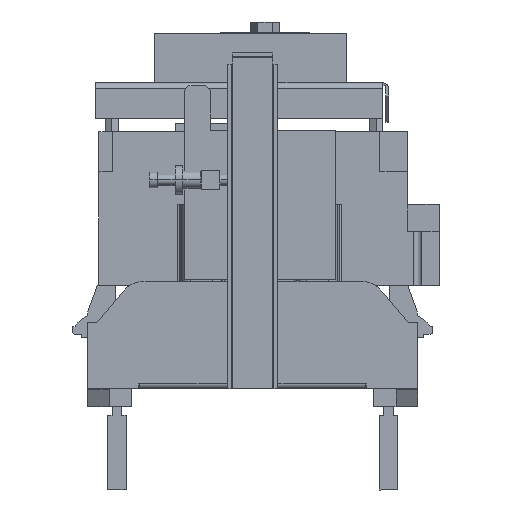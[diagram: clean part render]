
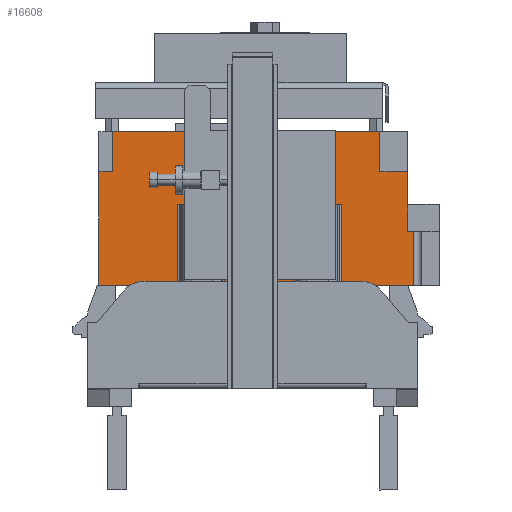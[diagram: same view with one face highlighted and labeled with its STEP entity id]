
A CAD part, left-side view. The second image highlights one B-rep face of the part: STEP entity #16608.
In plain terms, the highlighted planar face has unit normal (-1, 0, 0).
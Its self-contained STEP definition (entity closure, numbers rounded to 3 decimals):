
#79 = EDGE_CURVE ( 'NONE', #19683, #11503, #25504, .T. ) ;
#149 = PLANE ( 'NONE',  #26766 ) ;
#354 = VERTEX_POINT ( 'NONE', #3316 ) ;
#360 = VERTEX_POINT ( 'NONE', #3441 ) ;
#473 = EDGE_CURVE ( 'NONE', #23004, #24489, #12141, .T. ) ;
#566 = CARTESIAN_POINT ( 'NONE',  ( -225., 361., 120.35 ) ) ;
#589 = ORIENTED_EDGE ( 'NONE', *, *, #79, .T. ) ;
#903 = VERTEX_POINT ( 'NONE', #20388 ) ;
#1126 = VERTEX_POINT ( 'NONE', #27131 ) ;
#1480 = CARTESIAN_POINT ( 'NONE',  ( -225., 361., 120.35 ) ) ;
#1605 = DIRECTION ( 'NONE',  ( 0., -1., 0. ) ) ;
#1644 = CARTESIAN_POINT ( 'NONE',  ( -225., 277.247, 86. ) ) ;
#1752 = EDGE_CURVE ( 'NONE', #1126, #19683, #22999, .T. ) ;
#1860 = DIRECTION ( 'NONE',  ( 0., 0., -1. ) ) ;
#1921 = ORIENTED_EDGE ( 'NONE', *, *, #11876, .T. ) ;
#1943 = CARTESIAN_POINT ( 'NONE',  ( -225., 227.378, 86. ) ) ;
#2276 = CARTESIAN_POINT ( 'NONE',  ( -225., 33.596, 120.35 ) ) ;
#2377 = DIRECTION ( 'NONE',  ( 0., 0., -1. ) ) ;
#2500 = EDGE_CURVE ( 'NONE', #354, #25776, #24986, .T. ) ;
#2631 = EDGE_CURVE ( 'NONE', #23232, #13958, #22244, .T. ) ;
#3305 = VERTEX_POINT ( 'NONE', #10548 ) ;
#3311 = VECTOR ( 'NONE', #3444, 1000. ) ;
#3316 = CARTESIAN_POINT ( 'NONE',  ( -225., 361., 0. ) ) ;
#3441 = CARTESIAN_POINT ( 'NONE',  ( -225., 346.2, 162.85 ) ) ;
#3444 = DIRECTION ( 'NONE',  ( 0., 0., -1. ) ) ;
#3451 = DIRECTION ( 'NONE',  ( 0., -1., 0. ) ) ;
#3610 = VECTOR ( 'NONE', #5686, 1000. ) ;
#3797 = VERTEX_POINT ( 'NONE', #2276 ) ;
#3880 = LINE ( 'NONE', #5277, #14881 ) ;
#4095 = LINE ( 'NONE', #24920, #15076 ) ;
#4107 = VECTOR ( 'NONE', #23623, 1000. ) ;
#4157 = CARTESIAN_POINT ( 'NONE',  ( -225., 277.247, 0. ) ) ;
#5277 = CARTESIAN_POINT ( 'NONE',  ( -225., 0., 0. ) ) ;
#5415 = DIRECTION ( 'NONE',  ( 0., 0., 1. ) ) ;
#5498 = LINE ( 'NONE', #1480, #10666 ) ;
#5686 = DIRECTION ( 'NONE',  ( 0., 1., 0. ) ) ;
#5727 = CARTESIAN_POINT ( 'NONE',  ( -225., 33.677, 57.45 ) ) ;
#5821 = ORIENTED_EDGE ( 'NONE', *, *, #20326, .F. ) ;
#5876 = VECTOR ( 'NONE', #3451, 1000. ) ;
#5964 = DIRECTION ( 'NONE',  ( 0., 0., -1. ) ) ;
#6244 = VECTOR ( 'NONE', #13614, 1000. ) ;
#6290 = CARTESIAN_POINT ( 'NONE',  ( -225., 103.86, 86. ) ) ;
#6983 = VERTEX_POINT ( 'NONE', #14270 ) ;
#7090 = DIRECTION ( 'NONE',  ( 0., 0., 1. ) ) ;
#7183 = CARTESIAN_POINT ( 'NONE',  ( -225., 63.042, 120.35 ) ) ;
#7523 = DIRECTION ( 'NONE',  ( 0., 1., 0. ) ) ;
#7587 = ORIENTED_EDGE ( 'NONE', *, *, #21628, .F. ) ;
#7945 = EDGE_CURVE ( 'NONE', #23004, #3797, #11645, .T. ) ;
#8210 = DIRECTION ( 'NONE',  ( 0., -1., 0. ) ) ;
#8379 = CARTESIAN_POINT ( 'NONE',  ( -225., 0., 0. ) ) ;
#8494 = EDGE_CURVE ( 'NONE', #25776, #903, #5498, .T. ) ;
#8880 = CARTESIAN_POINT ( 'NONE',  ( -225., 103.86, 0. ) ) ;
#9133 = VERTEX_POINT ( 'NONE', #8880 ) ;
#9248 = LINE ( 'NONE', #16585, #3311 ) ;
#9575 = CARTESIAN_POINT ( 'NONE',  ( -225., 153.728, 86. ) ) ;
#10065 = LINE ( 'NONE', #1644, #26716 ) ;
#10548 = CARTESIAN_POINT ( 'NONE',  ( -225., 153.728, 0. ) ) ;
#10666 = VECTOR ( 'NONE', #8210, 1000. ) ;
#11503 = VERTEX_POINT ( 'NONE', #27718 ) ;
#11645 = LINE ( 'NONE', #14763, #28319 ) ;
#11693 = LINE ( 'NONE', #5727, #5876 ) ;
#11876 = EDGE_CURVE ( 'NONE', #13958, #9133, #26425, .T. ) ;
#12141 = LINE ( 'NONE', #7183, #22380 ) ;
#12143 = CARTESIAN_POINT ( 'NONE',  ( -225., 63.042, 162.85 ) ) ;
#12500 = DIRECTION ( 'NONE',  ( 0., -1., 0. ) ) ;
#12624 = DIRECTION ( 'NONE',  ( 0., 0., -1. ) ) ;
#12679 = ORIENTED_EDGE ( 'NONE', *, *, #17217, .F. ) ;
#12946 = EDGE_LOOP ( 'NONE', ( #1921, #13609, #27659, #16080, #26301, #14024, #19155, #7587, #12679, #14359, #19465, #13662, #12990, #23939, #589, #5821, #13308, #24260 ) ) ;
#12990 = ORIENTED_EDGE ( 'NONE', *, *, #13356, .F. ) ;
#13212 = VECTOR ( 'NONE', #5415, 1000. ) ;
#13308 = ORIENTED_EDGE ( 'NONE', *, *, #18440, .F. ) ;
#13356 = EDGE_CURVE ( 'NONE', #1126, #18063, #10065, .T. ) ;
#13609 = ORIENTED_EDGE ( 'NONE', *, *, #25563, .F. ) ;
#13614 = DIRECTION ( 'NONE',  ( 0., -1., 0. ) ) ;
#13662 = ORIENTED_EDGE ( 'NONE', *, *, #17756, .F. ) ;
#13687 = VECTOR ( 'NONE', #16698, 1000. ) ;
#13736 = EDGE_CURVE ( 'NONE', #3797, #16288, #4095, .T. ) ;
#13849 = EDGE_CURVE ( 'NONE', #16288, #6983, #11693, .T. ) ;
#13877 = VECTOR ( 'NONE', #1860, 1000. ) ;
#13958 = VERTEX_POINT ( 'NONE', #6290 ) ;
#14024 = ORIENTED_EDGE ( 'NONE', *, *, #7945, .F. ) ;
#14270 = CARTESIAN_POINT ( 'NONE',  ( -225., 27.25, 57.45 ) ) ;
#14284 = FACE_OUTER_BOUND ( 'NONE', #12946, .T. ) ;
#14359 = ORIENTED_EDGE ( 'NONE', *, *, #8494, .F. ) ;
#14516 = CARTESIAN_POINT ( 'NONE',  ( -225., 153.728, 86. ) ) ;
#14763 = CARTESIAN_POINT ( 'NONE',  ( -225., 33.542, 120.35 ) ) ;
#14836 = VECTOR ( 'NONE', #5964, 1000. ) ;
#14881 = VECTOR ( 'NONE', #7523, 1000. ) ;
#15076 = VECTOR ( 'NONE', #16210, 1000. ) ;
#15081 = DIRECTION ( 'NONE',  ( 0., 0., 1. ) ) ;
#15528 = DIRECTION ( 'NONE',  ( 1., 0., 0. ) ) ;
#16080 = ORIENTED_EDGE ( 'NONE', *, *, #13849, .F. ) ;
#16210 = DIRECTION ( 'NONE',  ( 0., 0.001, -1. ) ) ;
#16288 = VERTEX_POINT ( 'NONE', #27547 ) ;
#16414 = VECTOR ( 'NONE', #19621, 1000. ) ;
#16585 = CARTESIAN_POINT ( 'NONE',  ( -225., 27.25, 70.959 ) ) ;
#16608 = ADVANCED_FACE ( 'NONE', ( #14284 ), #149, .F. ) ;
#16628 = CARTESIAN_POINT ( 'NONE',  ( -225., 361., 0. ) ) ;
#16698 = DIRECTION ( 'NONE',  ( 0., 0., -1. ) ) ;
#17217 = EDGE_CURVE ( 'NONE', #903, #360, #23503, .T. ) ;
#17268 = CARTESIAN_POINT ( 'NONE',  ( -225., 63.042, 120.35 ) ) ;
#17625 = CARTESIAN_POINT ( 'NONE',  ( -225., 153.728, 86. ) ) ;
#17756 = EDGE_CURVE ( 'NONE', #18063, #354, #3880, .T. ) ;
#18063 = VERTEX_POINT ( 'NONE', #4157 ) ;
#18440 = EDGE_CURVE ( 'NONE', #23232, #3305, #25323, .T. ) ;
#18502 = CARTESIAN_POINT ( 'NONE',  ( -225., 346.2, 120.35 ) ) ;
#18766 = CARTESIAN_POINT ( 'NONE',  ( -225., 0., 0. ) ) ;
#19065 = VERTEX_POINT ( 'NONE', #27602 ) ;
#19155 = ORIENTED_EDGE ( 'NONE', *, *, #473, .T. ) ;
#19346 = VECTOR ( 'NONE', #12500, 1000. ) ;
#19465 = ORIENTED_EDGE ( 'NONE', *, *, #2500, .F. ) ;
#19621 = DIRECTION ( 'NONE',  ( 0., -1., 0. ) ) ;
#19683 = VERTEX_POINT ( 'NONE', #20720 ) ;
#19700 = EDGE_CURVE ( 'NONE', #6983, #19065, #9248, .T. ) ;
#20033 = CARTESIAN_POINT ( 'NONE',  ( -225., 277.247, 86. ) ) ;
#20326 = EDGE_CURVE ( 'NONE', #3305, #11503, #20422, .T. ) ;
#20388 = CARTESIAN_POINT ( 'NONE',  ( -225., 346.2, 120.35 ) ) ;
#20422 = LINE ( 'NONE', #18766, #3610 ) ;
#20550 = VECTOR ( 'NONE', #15081, 1000. ) ;
#20720 = CARTESIAN_POINT ( 'NONE',  ( -225., 227.378, 86. ) ) ;
#21628 = EDGE_CURVE ( 'NONE', #360, #24489, #24492, .T. ) ;
#22244 = LINE ( 'NONE', #17625, #16414 ) ;
#22380 = VECTOR ( 'NONE', #7090, 1000. ) ;
#22999 = LINE ( 'NONE', #20033, #6244 ) ;
#23004 = VERTEX_POINT ( 'NONE', #17268 ) ;
#23232 = VERTEX_POINT ( 'NONE', #9575 ) ;
#23410 = CARTESIAN_POINT ( 'NONE',  ( -225., 361., 162.85 ) ) ;
#23459 = CARTESIAN_POINT ( 'NONE',  ( -225., 103.86, 86. ) ) ;
#23503 = LINE ( 'NONE', #18502, #13212 ) ;
#23623 = DIRECTION ( 'NONE',  ( 0., 1., 0. ) ) ;
#23939 = ORIENTED_EDGE ( 'NONE', *, *, #1752, .T. ) ;
#24241 = CARTESIAN_POINT ( 'NONE',  ( -225., 0., 0. ) ) ;
#24260 = ORIENTED_EDGE ( 'NONE', *, *, #2631, .T. ) ;
#24489 = VERTEX_POINT ( 'NONE', #12143 ) ;
#24492 = LINE ( 'NONE', #23410, #19346 ) ;
#24920 = CARTESIAN_POINT ( 'NONE',  ( -225., 33.542, 162.85 ) ) ;
#24986 = LINE ( 'NONE', #16628, #20550 ) ;
#25323 = LINE ( 'NONE', #14516, #13687 ) ;
#25504 = LINE ( 'NONE', #1943, #13877 ) ;
#25563 = EDGE_CURVE ( 'NONE', #19065, #9133, #26007, .T. ) ;
#25776 = VERTEX_POINT ( 'NONE', #566 ) ;
#26007 = LINE ( 'NONE', #8379, #4107 ) ;
#26301 = ORIENTED_EDGE ( 'NONE', *, *, #13736, .F. ) ;
#26425 = LINE ( 'NONE', #23459, #14836 ) ;
#26716 = VECTOR ( 'NONE', #12624, 1000. ) ;
#26766 = AXIS2_PLACEMENT_3D ( 'NONE', #24241, #15528, #2377 ) ;
#27131 = CARTESIAN_POINT ( 'NONE',  ( -225., 277.247, 86. ) ) ;
#27547 = CARTESIAN_POINT ( 'NONE',  ( -225., 33.677, 57.45 ) ) ;
#27602 = CARTESIAN_POINT ( 'NONE',  ( -225., 27.25, 0. ) ) ;
#27659 = ORIENTED_EDGE ( 'NONE', *, *, #19700, .F. ) ;
#27718 = CARTESIAN_POINT ( 'NONE',  ( -225., 227.378, 0. ) ) ;
#28319 = VECTOR ( 'NONE', #1605, 1000. ) ;
